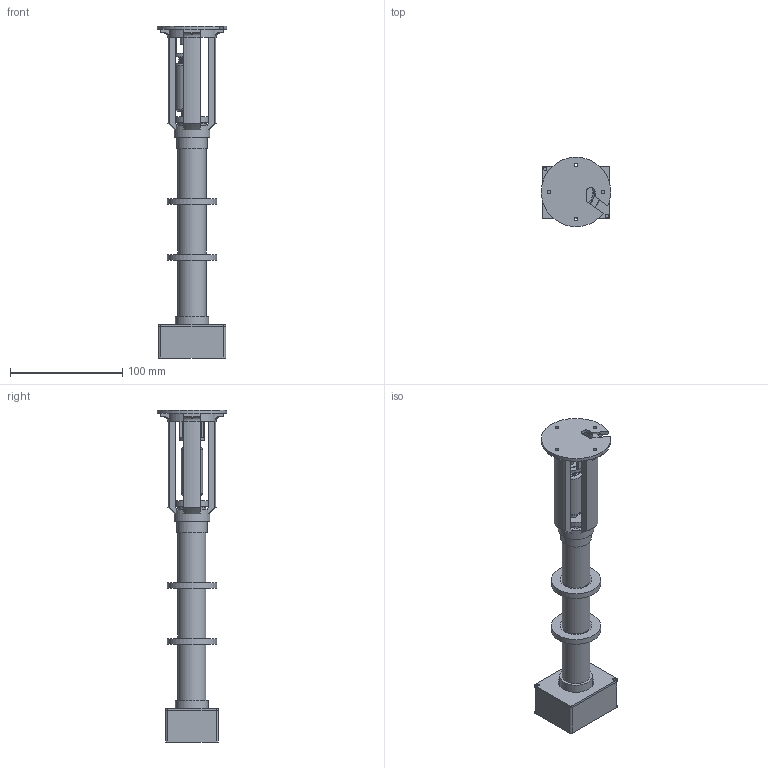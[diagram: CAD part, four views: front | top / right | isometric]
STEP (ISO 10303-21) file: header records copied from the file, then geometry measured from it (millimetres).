
FILE_DESCRIPTION(/* description */ (''),/* implementation_level */ '2;1');
FILE_NAME(/* name */ 'WaterSamplingMechanismAssembly v9.step',/* time_stamp */ '2023-08-25T16:42:06+03:00',/* author */ (''),/* organization */ (''),/* preprocessor_version */ 'ST-DEVELOPER v20',/* originating_system */ 'Autodesk Translation Framework v12.9.0.99',/* authorisation */ '');
FILE_SCHEMA (('AUTOMOTIVE_DESIGN { 1 0 10303 214 3 1 1 }'));
Length unit declared in the file: millimetre
Products named in the file (12): WaterSamplingMechanismAssembly; DuranLTubeToSoldenoidHolderBottomPart v9; DuranGlassTubeLarge; TubeCapLargeDuranT2; SolenoidStopper; WeightCup; GlassTubeProtectionRings; XRN-19; XRN_SolenoidSpringCap; SolenoidSpringCap; WeightCupHolder; WeightA
Assembly tree (13 placements, depth 3):
  WaterSamplingMechanismAssembly
    DuranLTubeToSoldenoidHolderBottomPart v9
    DuranGlassTubeLarge
    TubeCapLargeDuranT2
    SolenoidStopper
    WeightCup
    GlassTubeProtectionRings  x2
    XRN-19
    XRN_SolenoidSpringCap
    SolenoidSpringCap
    WeightCupHolder
      WeightA  x2
Bounding box: 61.87 x 61.86 x 296 mm (x, y, z)
Volume: 168192.2 mm3; surface area: 110030.6 mm2
Topology: 18 solids, 18 shells, 231 faces, 539 edges, 349 vertices
Faces by surface type: plane 114, cylinder 86, torus 16, cone 8, bspline 7
Full cylindrical faces by diameter (mm): 2.9 x1, 3 x7, 3.1 x8, 4 x2, 5.3 x1, 6 x1, 7.9 x1, 8 x1, 9 x1, 11 x1, 11.534 x3, 12.526 x1, 13.822 x4, 14.203 x1, 19 x1, 21 x1, 22 x3, 22.2 x1, 23 x1, 23.4 x1, 24 x3, 24.5 x1, 25 x2, 27 x1, 29.5 x1, 30 x1, 31.5 x1, 32 x1, 33.243 x1, 43.142 x1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
Entity records: 9480 total; most frequent: CARTESIAN_POINT 3935, DIRECTION 1122, ORIENTED_EDGE 1030, EDGE_CURVE 515, AXIS2_PLACEMENT_3D 445, VERTEX_POINT 333, EDGE_LOOP 270, LINE 232
